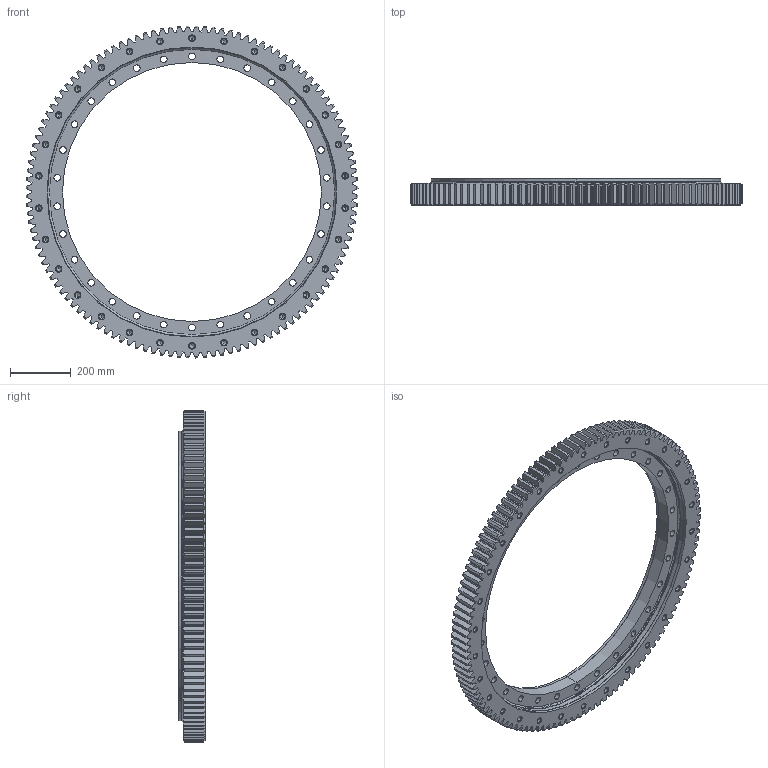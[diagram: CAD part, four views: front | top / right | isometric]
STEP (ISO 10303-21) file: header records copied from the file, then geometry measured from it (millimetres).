
FILE_DESCRIPTION (( 'STEP AP203' ), '1' );
FILE_NAME ('B2125-2-1096CA.STEP', '2026-03-10T06:22:32', ( '' ), ( '' ), 'SwSTEP 2.0', 'SolidWorks 2020', '' );
FILE_SCHEMA (( 'CONFIG_CONTROL_DESIGN' ));
Length unit declared in the file: millimetre
Products named in the file (1): B2125-2-1096CA
Bounding box: 1095.81 x 86 x 1095.81 mm (x, y, z)
Volume: 20750398.9 mm3; surface area: 2125244.1 mm2
Topology: 4 solids, 4 shells, 1130 faces, 3218 edges, 2074 vertices
Faces by surface type: cone 368, cylinder 266, plane 256, bspline 240
Entity records: 37401 total; most frequent: CARTESIAN_POINT 9963, ORIENTED_EDGE 6316, DIRECTION 4824, EDGE_CURVE 3158, VERTEX_POINT 2074, AXIS2_PLACEMENT_3D 1735, VECTOR 1354, LINE 1354
